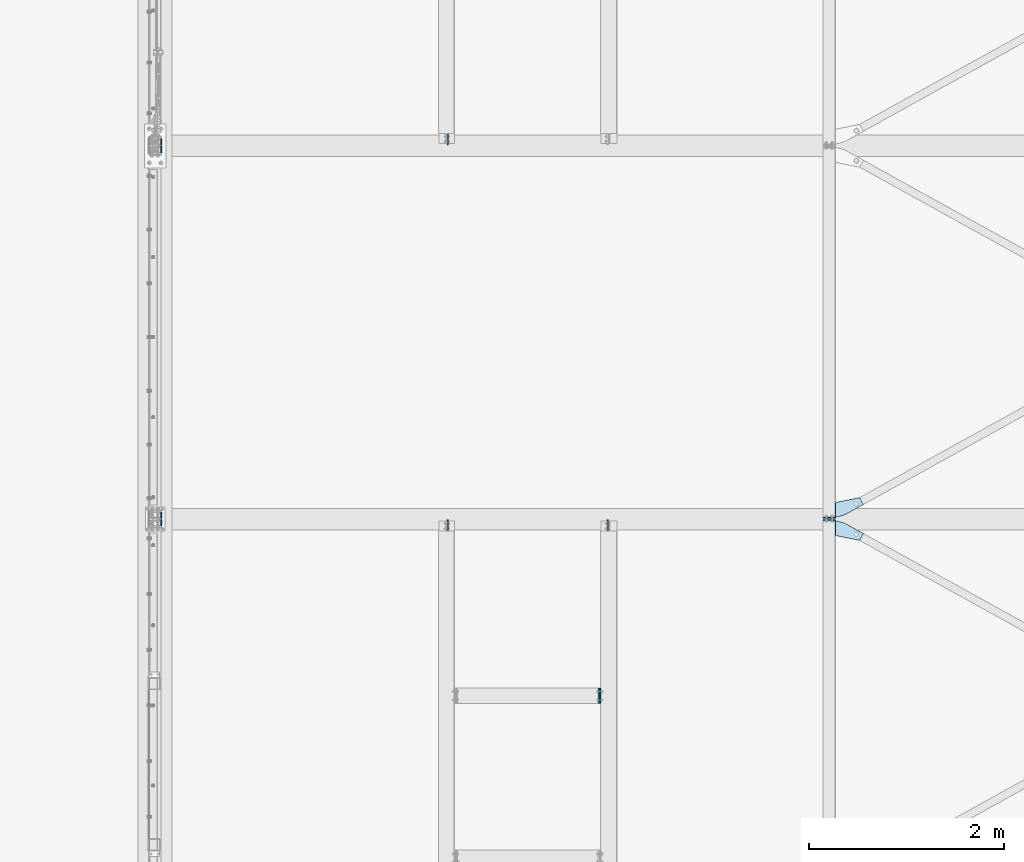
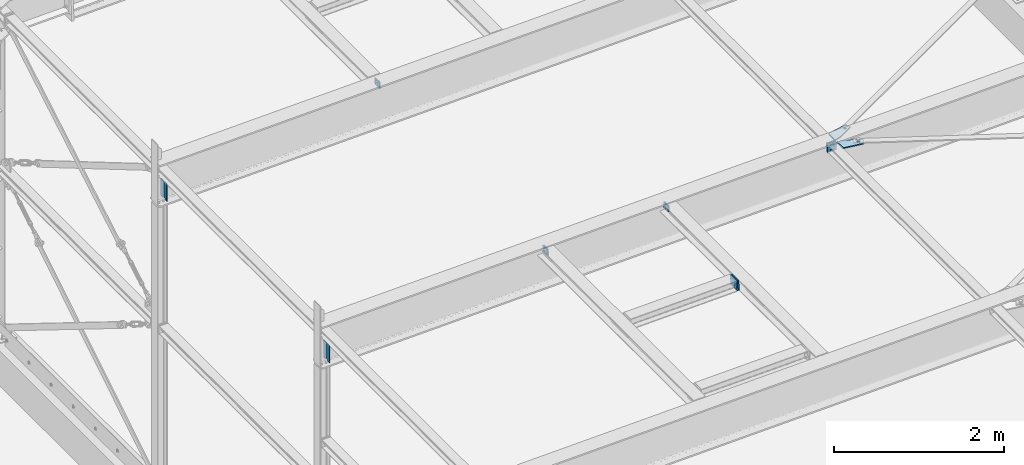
# One storey, part 39 of 476: 13 plates, 53 openings.
"""IFC2X3 building model written with IfcOpenShell, lengths in millimetres."""

from ifc_helpers import new_model, entity, si_unit, converted_unit, point, frame, frame_2d, origin, origin_with_axes, origin_2d_with_axis, place, context, project, spatial, polyline, circle_curve, line_curve, trimmed, segment, composite_curve, circle, outline, extrude, material, layer, layer_set, element, save


model = new_model("IFC2X3")

# Units and contexts
model_context = context("Model", 3, precision=1e-09, world=origin_with_axes())
ifc_project = project(units=[si_unit("LENGTHUNIT", "METRE", prefix="MILLI"), si_unit("AREAUNIT", "SQUARE_METRE"), si_unit("VOLUMEUNIT", "CUBIC_METRE"), converted_unit("PLANEANGLEUNIT", "DEGREE", entity("IfcPlaneAngleMeasure", 0.01745329), si_unit("PLANEANGLEUNIT", "RADIAN"), dimensions=[0, 0, 0, 0, 0, 0, 0])], contexts=[model_context])

# Site, building, storey
site_placement = place(None, origin_with_axes())
site = spatial("IfcSite", under=ifc_project, at=site_placement, Name="mKR Teilneubau & Sanierung BA1 - Ostfildern", CompositionType="ELEMENT")
building_placement = place(site_placement, origin_with_axes())
building = spatial("IfcBuilding", under=site, at=building_placement, Name="Struktur 1", CompositionType="ELEMENT")
storey_placement = place(building_placement, origin_with_axes())
storey = spatial("IfcBuildingStorey", under=building, at=storey_placement, Name="Default Storey", CompositionType="ELEMENT", Elevation=0.0)

# Plate, openings
ifc_material = material(Name="S235JR")
ifc_layer_1 = layer(ifc_material, 15.0)
ifc_layer_set_1 = layer_set([ifc_layer_1], Name="S235JR")
plate_1_placement = place(None, frame((15123.866061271, -13603.67487897, 5423.533418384), z_axis=(0.030019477, 0.0, -0.999549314), x_axis=(0.999549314, 0.0, 0.030019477)))
plate_1 = element("IfcPlate", 1, at=plate_1_placement, inside=storey, material=ifc_layer_set_1, Name="-", ObjectType="-", context=model_context, shape_type="SweptSolid", body=[
    extrude(outline(polyline([(0.0, 0.0), (55.140356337, 0.0), (291.381008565, 130.729269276), (252.646618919, 200.726934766), (1e-09, 150.0), (0.0, 0.0)])), origin_with_axes(), (0.0, 0.0, 1.0), 15.0),
])
opening_1_placement = place(plate_1_placement, frame((0.0, 0.0, -0.01), z_axis=(0.0, 0.0, 1.0), x_axis=(1.0, 0.0, 0.0)))
element("IfcOpeningElement", 2, at=opening_1_placement, cuts=plate_1, ObjectType="Opening", context=model_context, shape_type="SweptSolid", body=[
    extrude(outline(composite_curve([segment(trimmed(line_curve((55.140356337, 0.0), (0.874966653, 0.484183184), 45.191234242), [point((55.140356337, 0.0))], [point((94.681179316, 21.880835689))], True, "CARTESIAN"), True, "CONTINUOUS"), segment(trimmed(circle_curve(frame_2d((9.949122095, 175.0), x_axis=(-1.0, 0.0)), 175.0), [point((94.681179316, 21.880835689))], [point((9.949122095, 0.0))], False, "CARTESIAN"), True, "CONTINUOUS"), segment(trimmed(line_curve((9.949122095, 0.0), (1.0, 0.0), 45.191234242), [point((9.949122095, 0.0))], [point((55.140356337, 0.0))], True, "CARTESIAN"), True, "CONTINUOUS")], self_intersect=False)), origin(), (0.0, 0.0, 1.0), 15.02),
])
opening_2_placement = place(plate_1_placement, frame((1e-09, 151.607257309, 0.0), z_axis=(0.0, -1.0, 0.0), x_axis=(1.0, 0.0, 0.0)))
element("IfcOpeningElement", 3, at=opening_2_placement, cuts=plate_1, ObjectType="Opening", context=model_context, shape_type="SweptSolid", body=[
    extrude(outline(polyline([(0.0, 0.0), (8.0, 0.0), (0.0, 8.0), (0.0, 0.0)])), origin(), (0.0, 0.0, 1.0), 151.628257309),
])
opening_3_placement = place(plate_1_placement, frame((219.51589081, 136.676196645, 15.499690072), z_axis=(-2.2474e-05, 0.0, -1.0), x_axis=(-0.874966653, -0.484183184, 1.9664e-05)))
element("IfcOpeningElement", 4, at=opening_3_placement, cuts=plate_1, ObjectType="Opening", context=model_context, shape_type="SweptSolid", body=[
    extrude(circle(Radius=14.501, at=origin_2d_with_axis()), origin(), (0.0, 0.0, 1.0), 16.000000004),
])

plate_2_placement = place(None, frame((15123.866061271, -13567.67287897, 5423.533418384), z_axis=(-0.030019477, 0.0, 0.999549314), x_axis=(0.999549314, 0.0, 0.030019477)))
plate_2 = element("IfcPlate", 5, at=plate_2_placement, inside=storey, material=ifc_layer_set_1, Name="-", ObjectType="-", context=model_context, shape_type="SweptSolid", body=[
    extrude(outline(polyline([(0.0, 0.0), (55.140356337, 0.0), (291.381008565, 130.729269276), (252.646618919, 200.726934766), (1e-09, 150.0), (0.0, 0.0)])), origin_with_axes(), (0.0, 0.0, -1.0), 15.0),
])
opening_4_placement = place(plate_2_placement, frame((55.140356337, 0.0, 0.01), z_axis=(0.0, 0.0, 1.0), x_axis=(0.874966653, 0.484183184, 0.0)))
element("IfcOpeningElement", 6, at=opening_4_placement, cuts=plate_2, ObjectType="Opening", context=model_context, shape_type="SweptSolid", body=[
    extrude(outline(composite_curve([segment(trimmed(line_curve((0.0, 0.0), (1.0, 0.0), 45.191234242), [point((0.0, 0.0))], [point((45.191234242, 0.0))], True, "CARTESIAN"), True, "CONTINUOUS"), segment(trimmed(circle_curve(frame_2d((45.191234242, 175.0), x_axis=(-1.0, 0.0)), 175.0), [point((45.191234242, 0.0))], [point((-39.540822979, 21.880835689))], False, "CARTESIAN"), True, "CONTINUOUS"), segment(trimmed(line_curve((-39.540822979, 21.880835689), (0.874966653, -0.484183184), 45.191234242), [point((-39.540822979, 21.880835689))], [point((0.0, 0.0))], True, "CARTESIAN"), True, "CONTINUOUS")], self_intersect=False)), origin(), (0.0, 0.0, -1.0), 15.02),
])
opening_5_placement = place(plate_2_placement, frame((0.0, -0.001, 0.0), z_axis=(0.0, 1.0, 0.0), x_axis=(1.0, 0.0, 0.0)))
element("IfcOpeningElement", 7, at=opening_5_placement, cuts=plate_2, ObjectType="Opening", context=model_context, shape_type="SweptSolid", body=[
    extrude(outline(polyline([(0.0, 0.0), (8.0, 0.0), (0.0, 8.0), (0.0, 0.0)])), origin(), (0.0, 0.0, 1.0), 151.628257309),
])
opening_6_placement = place(plate_2_placement, frame((232.203782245, 143.697336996, -15.499404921), z_axis=(2.2474e-05, 0.0, -1.0), x_axis=(-1.0, 0.0, -2.2474e-05)))
element("IfcOpeningElement", 8, at=opening_6_placement, cuts=plate_2, ObjectType="Opening", context=model_context, shape_type="SweptSolid", body=[
    extrude(circle(Radius=14.501, at=frame_2d((12.687891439, -7.021140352), x_axis=(1.0, 0.0))), origin(), (0.0, 0.0, -1.0), 16.000000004),
])

plate_3_placement = place(None, frame((12807.629901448, -13591.67387897, 5289.709306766), z_axis=(-0.999549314, 0.0, -0.030019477), x_axis=(0.0, -1.0, 0.0)))
plate_3 = element("IfcPlate", 9, at=plate_3_placement, inside=storey, material=ifc_layer_set_1, Name="LugPlate#1", ObjectType="LugPlate#1", context=model_context, shape_type="SweptSolid", body=[
    extrude(outline(polyline([(0.0, 0.0), (115.0, 0.0), (115.0, 90.0), (0.0, 90.0), (0.0, 0.0)])), origin_with_axes(), (0.0, 0.0, 1.0), 15.0),
])
opening_7_placement = place(plate_3_placement, frame((0.0, 0.0, 15.1), z_axis=(0.0, 0.0, -1.0), x_axis=(-1.0, 0.0, 0.0)))
element("IfcOpeningElement", 10, at=opening_7_placement, cuts=plate_3, ObjectType="Opening", context=model_context, shape_type="SweptSolid", body=[
    extrude(outline(polyline([(0.001, 80.997518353), (0.001, 105.000932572), (-24.002414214, 105.000932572), (0.001, 80.997518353)])), origin(), (0.0, 0.0, 1.0), 15.2),
])
opening_8_placement = place(plate_3_placement, frame((40.0, 65.0, 15.5), z_axis=(0.0, 0.0, -1.0), x_axis=(1.0, 0.0, 0.0)))
element("IfcOpeningElement", 11, at=opening_8_placement, cuts=plate_3, ObjectType="Opening", context=model_context, shape_type="SweptSolid", body=[
    extrude(circle(Radius=7.001, at=frame_2d((50.0, 40.0), x_axis=(1.0, 0.0))), origin(), (0.0, 0.0, 1.0), 16.0),
])
opening_9_placement = place(plate_3_placement, frame((40.0, 65.0, 15.5), z_axis=(0.0, 0.0, -1.0), x_axis=(1.0, 0.0, 0.0)))
element("IfcOpeningElement", 12, at=opening_9_placement, cuts=plate_3, ObjectType="Opening", context=model_context, shape_type="SweptSolid", body=[
    extrude(circle(Radius=7.001, at=frame_2d((0.0, 40.0), x_axis=(1.0, 0.0))), origin(), (0.0, 0.0, 1.0), 16.0),
])
opening_10_placement = place(plate_3_placement, frame((40.0, 65.0, 15.5), z_axis=(0.0, 0.0, -1.0), x_axis=(1.0, 0.0, 0.0)))
element("IfcOpeningElement", 13, at=opening_10_placement, cuts=plate_3, ObjectType="Opening", context=model_context, shape_type="SweptSolid", body=[
    extrude(circle(Radius=7.001, at=frame_2d((50.0, 0.0), x_axis=(1.0, 0.0))), origin(), (0.0, 0.0, 1.0), 16.0),
])
opening_11_placement = place(plate_3_placement, frame((40.0, 65.0, 15.5), z_axis=(0.0, 0.0, -1.0), x_axis=(1.0, 0.0, 0.0)))
element("IfcOpeningElement", 14, at=opening_11_placement, cuts=plate_3, ObjectType="Opening", context=model_context, shape_type="SweptSolid", body=[
    extrude(circle(Radius=7.001, at=origin_2d_with_axis()), origin(), (0.0, 0.0, 1.0), 16.0),
])

plate_4_placement = place(None, frame((11154.376456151, -9759.67387897, 5240.019800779), z_axis=(0.999549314, 0.0, 0.030019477), x_axis=(0.0, 1.0, 0.0)))
plate_4 = element("IfcPlate", 15, at=plate_4_placement, inside=storey, material=ifc_layer_set_1, Name="LugPlate#2", ObjectType="LugPlate#2", context=model_context, shape_type="SweptSolid", body=[
    extrude(outline(polyline([(0.0, 0.0), (115.0, 0.0), (115.0, 90.0), (0.0, 90.0), (0.0, 0.0)])), origin_with_axes(), (0.0, 0.0, 1.0), 15.0),
])
opening_12_placement = place(plate_4_placement, frame((0.0, 0.0, -0.1), z_axis=(0.0, 0.0, 1.0), x_axis=(1.0, 0.0, 0.0)))
element("IfcOpeningElement", 16, at=opening_12_placement, cuts=plate_4, ObjectType="Opening", context=model_context, shape_type="SweptSolid", body=[
    extrude(outline(polyline([(24.002414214, 105.001067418), (-0.001, 105.001067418), (-0.001, 80.997653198), (24.002414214, 105.001067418)])), origin(), (0.0, 0.0, 1.0), 15.2),
])
opening_13_placement = place(plate_4_placement, frame((82.999, 25.0, -0.5), z_axis=(0.0, 0.0, -1.0), x_axis=(-1.0, 0.0, 0.0)))
element("IfcOpeningElement", 17, at=opening_13_placement, cuts=plate_4, ObjectType="Opening", context=model_context, shape_type="SweptSolid", body=[
    extrude(circle(Radius=7.001, at=frame_2d((-7.001, 0.0), x_axis=(1.0, 0.0))), origin(), (0.0, 0.0, -1.0), 16.0),
])
opening_14_placement = place(plate_4_placement, frame((32.999, 25.0, -0.5), z_axis=(0.0, 0.0, -1.0), x_axis=(-1.0, 0.0, 0.0)))
element("IfcOpeningElement", 18, at=opening_14_placement, cuts=plate_4, ObjectType="Opening", context=model_context, shape_type="SweptSolid", body=[
    extrude(circle(Radius=7.001, at=frame_2d((-7.001, 0.0), x_axis=(1.0, 0.0))), origin(), (0.0, 0.0, -1.0), 16.0),
])
opening_15_placement = place(plate_4_placement, frame((82.999, 65.0, -0.5), z_axis=(0.0, 0.0, -1.0), x_axis=(-1.0, 0.0, 0.0)))
element("IfcOpeningElement", 19, at=opening_15_placement, cuts=plate_4, ObjectType="Opening", context=model_context, shape_type="SweptSolid", body=[
    extrude(circle(Radius=7.001, at=frame_2d((-7.001, 0.0), x_axis=(1.0, 0.0))), origin(), (0.0, 0.0, -1.0), 16.0),
])
opening_16_placement = place(plate_4_placement, frame((32.999, 65.0, -0.5), z_axis=(0.0, 0.0, -1.0), x_axis=(-1.0, 0.0, 0.0)))
element("IfcOpeningElement", 20, at=opening_16_placement, cuts=plate_4, ObjectType="Opening", context=model_context, shape_type="SweptSolid", body=[
    extrude(circle(Radius=7.001, at=frame_2d((-7.001, 0.0), x_axis=(1.0, 0.0))), origin(), (0.0, 0.0, -1.0), 16.0),
])

plate_5_placement = place(None, frame((11151.674703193, -13591.67387897, 5329.979239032), z_axis=(0.999549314, 0.0, 0.030019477), x_axis=(0.0, -1.0, 0.0)))
plate_5 = element("IfcPlate", 21, at=plate_5_placement, inside=storey, material=ifc_layer_set_1, Name="LugPlate#2", ObjectType="LugPlate#2", context=model_context, shape_type="SweptSolid", body=[
    extrude(outline(polyline([(0.0, 0.0), (115.0, 0.0), (115.0, 90.0), (0.0, 90.0), (0.0, 0.0)])), origin_with_axes(), (0.0, 0.0, 1.0), 15.0),
])
opening_17_placement = place(plate_5_placement, frame((0.0, 0.0, -0.1), z_axis=(0.0, 0.0, 1.0), x_axis=(-1.0, 0.0, 0.0)))
element("IfcOpeningElement", 22, at=opening_17_placement, cuts=plate_5, ObjectType="Opening", context=model_context, shape_type="SweptSolid", body=[
    extrude(outline(polyline([(0.001, -9.002346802), (0.001, 15.001067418), (-24.002414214, 15.001067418), (0.001, -9.002346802)])), origin(), (0.0, 0.0, 1.0), 15.2),
])
opening_18_placement = place(plate_5_placement, frame((40.0, 25.0, -0.5), z_axis=(0.0, 0.0, 1.0), x_axis=(1.0, 0.0, 0.0)))
element("IfcOpeningElement", 23, at=opening_18_placement, cuts=plate_5, ObjectType="Opening", context=model_context, shape_type="SweptSolid", body=[
    extrude(circle(Radius=7.001, at=frame_2d((50.0, 40.0), x_axis=(1.0, 0.0))), origin(), (0.0, 0.0, 1.0), 16.0),
])
opening_19_placement = place(plate_5_placement, frame((40.0, 25.0, -0.5), z_axis=(0.0, 0.0, 1.0), x_axis=(1.0, 0.0, 0.0)))
element("IfcOpeningElement", 24, at=opening_19_placement, cuts=plate_5, ObjectType="Opening", context=model_context, shape_type="SweptSolid", body=[
    extrude(circle(Radius=7.001, at=frame_2d((0.0, 40.0), x_axis=(1.0, 0.0))), origin(), (0.0, 0.0, 1.0), 16.0),
])
opening_20_placement = place(plate_5_placement, frame((40.0, 25.0, -0.5), z_axis=(0.0, 0.0, 1.0), x_axis=(1.0, 0.0, 0.0)))
element("IfcOpeningElement", 25, at=opening_20_placement, cuts=plate_5, ObjectType="Opening", context=model_context, shape_type="SweptSolid", body=[
    extrude(circle(Radius=7.001, at=frame_2d((50.0, 0.0), x_axis=(1.0, 0.0))), origin(), (0.0, 0.0, 1.0), 16.0),
])
opening_21_placement = place(plate_5_placement, frame((40.0, 25.0, -0.5), z_axis=(0.0, 0.0, 1.0), x_axis=(1.0, 0.0, 0.0)))
element("IfcOpeningElement", 26, at=opening_21_placement, cuts=plate_5, ObjectType="Opening", context=model_context, shape_type="SweptSolid", body=[
    extrude(circle(Radius=7.001, at=origin_2d_with_axis()), origin(), (0.0, 0.0, 1.0), 16.0),
])

plate_6_placement = place(None, frame((12699.238358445, -15395.673034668, 5334.436682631), z_axis=(0.999549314, 0.0, 0.030019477), x_axis=(0.030019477, 0.0, -0.999549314)))
plate_6 = element("IfcPlate", 27, at=plate_6_placement, inside=storey, material=ifc_layer_set_1, Name="Endplate#1", ObjectType="Endplate#1", context=model_context, shape_type="SweptSolid", body=[
    extrude(outline(polyline([(-70.0, -80.0), (70.0, -80.0), (70.0, 80.0), (-70.0, 80.0), (-70.0, -80.0)])), origin_with_axes(), (0.0, 0.0, 1.0), 15.0),
])
opening_22_placement = place(plate_6_placement, frame((52.0, 18.0, 15.5), z_axis=(0.0, 0.0, -1.0), x_axis=(-1.0, 0.0, 0.0)))
element("IfcOpeningElement", 28, at=opening_22_placement, cuts=plate_6, ObjectType="Opening", context=model_context, shape_type="SweptSolid", body=[
    extrude(circle(Radius=6.001, at=origin_2d_with_axis()), origin(), (0.0, 0.0, 1.0), 16.0),
])
opening_23_placement = place(plate_6_placement, frame((-52.0, 18.0, 15.5), z_axis=(0.0, 0.0, -1.0), x_axis=(-1.0, 0.0, 0.0)))
element("IfcOpeningElement", 29, at=opening_23_placement, cuts=plate_6, ObjectType="Opening", context=model_context, shape_type="SweptSolid", body=[
    extrude(circle(Radius=6.001, at=origin_2d_with_axis()), origin(), (0.0, 0.0, 1.0), 16.0),
])
opening_24_placement = place(plate_6_placement, frame((-52.0, -18.0, 15.5), z_axis=(0.0, 0.0, -1.0), x_axis=(-1.0, 0.0, 0.0)))
element("IfcOpeningElement", 30, at=opening_24_placement, cuts=plate_6, ObjectType="Opening", context=model_context, shape_type="SweptSolid", body=[
    extrude(circle(Radius=6.001, at=origin_2d_with_axis()), origin(), (0.0, 0.0, 1.0), 16.0),
])
opening_25_placement = place(plate_6_placement, frame((52.0, -18.0, 15.5), z_axis=(0.0, 0.0, -1.0), x_axis=(-1.0, 0.0, 0.0)))
element("IfcOpeningElement", 31, at=opening_25_placement, cuts=plate_6, ObjectType="Opening", context=model_context, shape_type="SweptSolid", body=[
    extrude(circle(Radius=6.001, at=origin_2d_with_axis()), origin(), (0.0, 0.0, 1.0), 16.0),
])
opening_26_placement = place(plate_6_placement, frame((35.0, -43.0, 15.5), z_axis=(0.0, 0.0, -1.0), x_axis=(0.0, -1.0, 0.0)))
element("IfcOpeningElement", 32, at=opening_26_placement, cuts=plate_6, ObjectType="Opening", context=model_context, shape_type="SweptSolid", body=[
    extrude(circle(Radius=7.001, at=frame_2d((0.0, 70.0), x_axis=(1.0, 0.0))), origin(), (0.0, 0.0, 1.0), 16.0),
])
opening_27_placement = place(plate_6_placement, frame((35.0, -43.0, 15.5), z_axis=(0.0, 0.0, -1.0), x_axis=(0.0, -1.0, 0.0)))
element("IfcOpeningElement", 33, at=opening_27_placement, cuts=plate_6, ObjectType="Opening", context=model_context, shape_type="SweptSolid", body=[
    extrude(circle(Radius=7.001, at=origin_2d_with_axis()), origin(), (0.0, 0.0, 1.0), 16.0),
])
opening_28_placement = place(plate_6_placement, frame((35.0, 43.0, 15.5), z_axis=(0.0, 0.0, -1.0), x_axis=(-1.0, 0.0, 0.0)))
element("IfcOpeningElement", 34, at=opening_28_placement, cuts=plate_6, ObjectType="Opening", context=model_context, shape_type="SweptSolid", body=[
    extrude(circle(Radius=7.001, at=frame_2d((70.0, 0.0), x_axis=(1.0, 0.0))), origin(), (0.0, 0.0, 1.0), 16.0),
])
opening_29_placement = place(plate_6_placement, frame((35.0, 43.0, 15.5), z_axis=(0.0, 0.0, -1.0), x_axis=(-1.0, 0.0, 0.0)))
element("IfcOpeningElement", 35, at=opening_29_placement, cuts=plate_6, ObjectType="Opening", context=model_context, shape_type="SweptSolid", body=[
    extrude(circle(Radius=7.001, at=origin_2d_with_axis()), origin(), (0.0, 0.0, 1.0), 16.0),
])

plate_7_placement = place(None, frame((12729.224837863, -15395.673034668, 5335.33726695), z_axis=(-0.999549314, 0.0, -0.030019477), x_axis=(0.0, -1.0, 0.0)))
plate_7 = element("IfcPlate", 36, at=plate_7_placement, inside=storey, material=ifc_layer_set_1, Name="T-plate", ObjectType="T-plate", context=model_context, shape_type="SweptSolid", body=[
    extrude(outline(polyline([(-80.0, -70.0), (80.0, -70.0), (80.0, 70.0), (-80.0, 70.0), (-80.0, -70.0)])), origin_with_axes(), (0.0, 0.0, 1.0), 15.0),
])
opening_30_placement = place(plate_7_placement, frame((43.0, -35.0, -0.5), z_axis=(0.0, 0.0, 1.0), x_axis=(1.0, 0.0, 0.0)))
element("IfcOpeningElement", 37, at=opening_30_placement, cuts=plate_7, ObjectType="Opening", context=model_context, shape_type="SweptSolid", body=[
    extrude(circle(Radius=7.001, at=frame_2d((0.0, 70.0), x_axis=(1.0, 0.0))), origin(), (0.0, 0.0, 1.0), 16.0),
])
opening_31_placement = place(plate_7_placement, frame((43.0, -35.0, -0.5), z_axis=(0.0, 0.0, 1.0), x_axis=(1.0, 0.0, 0.0)))
element("IfcOpeningElement", 38, at=opening_31_placement, cuts=plate_7, ObjectType="Opening", context=model_context, shape_type="SweptSolid", body=[
    extrude(circle(Radius=7.001, at=origin_2d_with_axis()), origin(), (0.0, 0.0, 1.0), 16.0),
])
opening_32_placement = place(plate_7_placement, frame((-43.0, -35.0, -0.5), z_axis=(0.0, 0.0, 1.0), x_axis=(0.0, 1.0, 0.0)))
element("IfcOpeningElement", 39, at=opening_32_placement, cuts=plate_7, ObjectType="Opening", context=model_context, shape_type="SweptSolid", body=[
    extrude(circle(Radius=7.001, at=frame_2d((70.0, 0.0), x_axis=(1.0, 0.0))), origin(), (0.0, 0.0, 1.0), 16.0),
])
opening_33_placement = place(plate_7_placement, frame((-43.0, -35.0, -0.5), z_axis=(0.0, 0.0, 1.0), x_axis=(0.0, 1.0, 0.0)))
element("IfcOpeningElement", 40, at=opening_33_placement, cuts=plate_7, ObjectType="Opening", context=model_context, shape_type="SweptSolid", body=[
    extrude(circle(Radius=7.001, at=origin_2d_with_axis()), origin(), (0.0, 0.0, 1.0), 16.0),
])

ifc_layer_2 = layer(ifc_material, 10.0)
ifc_layer_set_2 = layer_set([ifc_layer_2], Name="S235JR")
plate_8_placement = place(None, frame((8222.108764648, -9836.67387897, 4696.483942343), z_axis=(1.0, 0.0, 0.0), x_axis=(0.0, 1.0, 0.0)))
plate_8 = element("IfcPlate", 41, at=plate_8_placement, inside=storey, material=ifc_layer_set_2, Name="Stiffener#2", ObjectType="Stiffener#2", context=model_context, shape_type="SweptSolid", body=[
    extrude(outline(polyline([(0.0, 0.0), (65.0, 0.0), (65.0, 250.0), (0.0, 250.0), (0.0, 0.0)])), origin_with_axes(), (0.0, 0.0, 1.0), 10.0),
])
opening_34_placement = place(plate_8_placement, frame((0.0, 0.0, -0.01), z_axis=(0.0, 0.0, 1.0), x_axis=(1.0, 0.0, 0.0)))
element("IfcOpeningElement", 42, at=opening_34_placement, cuts=plate_8, ObjectType="Opening", context=model_context, shape_type="SweptSolid", body=[
    extrude(outline(composite_curve([segment(trimmed(line_curve((65.0, 0.0), (0.0, 1.0), 25.0), [point((65.0, 0.0))], [point((65.0, 25.0))], True, "CARTESIAN"), True, "CONTINUOUS"), segment(trimmed(circle_curve(frame_2d((40.0, 25.0), x_axis=(-1.0, 0.0)), 25.0), [point((65.0, 25.0))], [point((40.0, 0.0))], False, "CARTESIAN"), True, "CONTINUOUS"), segment(trimmed(line_curve((40.0, 0.0), (1.0, 0.0), 25.0), [point((40.0, 0.0))], [point((65.0, 0.0))], True, "CARTESIAN"), True, "CONTINUOUS")], self_intersect=False)), origin(), (0.0, 0.0, 1.0), 10.02),
])
opening_35_placement = place(plate_8_placement, frame((41.0, 22.499322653, -0.5), z_axis=(0.0, 0.0, 1.0), x_axis=(0.0, 1.0, 0.0)))
element("IfcOpeningElement", 43, at=opening_35_placement, cuts=plate_8, ObjectType="Opening", context=model_context, shape_type="SweptSolid", body=[
    extrude(circle(Radius=7.001, at=frame_2d((-7.0, -7.0), x_axis=(1.0, 0.0))), origin(), (0.0, 0.0, 1.0), 11.0),
])

plate_9_placement = place(None, frame((8222.108764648, -9759.67387897, 4696.483942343), z_axis=(1.0, 0.0, 0.0), x_axis=(0.0, 1.0, 0.0)))
plate_9 = element("IfcPlate", 44, at=plate_9_placement, inside=storey, material=ifc_layer_set_2, Name="Stiffener#2", ObjectType="Stiffener#2", context=model_context, shape_type="SweptSolid", body=[
    extrude(outline(polyline([(0.0, 0.0), (65.0, 0.0), (65.0, 250.0), (0.0, 250.0), (0.0, 0.0)])), origin_with_axes(), (0.0, 0.0, 1.0), 10.0),
])
opening_36_placement = place(plate_9_placement, frame((0.0, 0.0, -0.01), z_axis=(0.0, 0.0, 1.0), x_axis=(1.0, 0.0, 0.0)))
element("IfcOpeningElement", 45, at=opening_36_placement, cuts=plate_9, ObjectType="Opening", context=model_context, shape_type="SweptSolid", body=[
    extrude(outline(composite_curve([segment(trimmed(line_curve((0.0, 0.0), (1.0, 0.0), 25.0), [point((0.0, 0.0))], [point((25.0, 0.0))], True, "CARTESIAN"), True, "CONTINUOUS"), segment(trimmed(circle_curve(frame_2d((25.0, 25.0), x_axis=(-1.0, 0.0)), 25.0), [point((25.0, 0.0))], [point((0.0, 25.0))], False, "CARTESIAN"), True, "CONTINUOUS"), segment(trimmed(line_curve((0.0, 25.0), (0.0, -1.0), 25.0), [point((0.0, 25.0))], [point((0.0, 0.0))], True, "CARTESIAN"), True, "CONTINUOUS")], self_intersect=False)), origin(), (0.0, 0.0, 1.0), 10.02),
])
opening_37_placement = place(plate_9_placement, frame((24.0, 22.499322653, -0.5), z_axis=(0.0, 0.0, 1.0), x_axis=(0.0, 1.0, 0.0)))
element("IfcOpeningElement", 46, at=opening_37_placement, cuts=plate_9, ObjectType="Opening", context=model_context, shape_type="SweptSolid", body=[
    extrude(circle(Radius=7.001, at=frame_2d((-7.0, 7.0), x_axis=(1.0, 0.0))), origin(), (0.0, 0.0, 1.0), 11.0),
])

plate_10_placement = place(None, frame((8222.108764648, -13656.67387897, 4696.483942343), z_axis=(1.0, 0.0, 0.0), x_axis=(0.0, 1.0, 0.0)))
plate_10 = element("IfcPlate", 47, at=plate_10_placement, inside=storey, material=ifc_layer_set_2, Name="Stiffener#2", ObjectType="Stiffener#2", context=model_context, shape_type="SweptSolid", body=[
    extrude(outline(polyline([(0.0, 0.0), (65.0, 0.0), (65.0, 250.0), (0.0, 250.0), (0.0, 0.0)])), origin_with_axes(), (0.0, 0.0, 1.0), 10.0),
])
opening_38_placement = place(plate_10_placement, frame((0.0, 0.0, -0.01), z_axis=(0.0, 0.0, 1.0), x_axis=(1.0, 0.0, 0.0)))
element("IfcOpeningElement", 48, at=opening_38_placement, cuts=plate_10, ObjectType="Opening", context=model_context, shape_type="SweptSolid", body=[
    extrude(outline(composite_curve([segment(trimmed(line_curve((65.0, 0.0), (0.0, 1.0), 25.0), [point((65.0, 0.0))], [point((65.0, 25.0))], True, "CARTESIAN"), True, "CONTINUOUS"), segment(trimmed(circle_curve(frame_2d((40.0, 25.0), x_axis=(-1.0, 0.0)), 25.0), [point((65.0, 25.0))], [point((40.0, 0.0))], False, "CARTESIAN"), True, "CONTINUOUS"), segment(trimmed(line_curve((40.0, 0.0), (1.0, 0.0), 25.0), [point((40.0, 0.0))], [point((65.0, 0.0))], True, "CARTESIAN"), True, "CONTINUOUS")], self_intersect=False)), origin(), (0.0, 0.0, 1.0), 10.02),
])
opening_39_placement = place(plate_10_placement, frame((41.0, 22.499322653, -0.5), z_axis=(0.0, 0.0, 1.0), x_axis=(0.0, 1.0, 0.0)))
element("IfcOpeningElement", 49, at=opening_39_placement, cuts=plate_10, ObjectType="Opening", context=model_context, shape_type="SweptSolid", body=[
    extrude(circle(Radius=7.001, at=frame_2d((-7.0, -7.0), x_axis=(1.0, 0.0))), origin(), (0.0, 0.0, 1.0), 11.0),
])

plate_11_placement = place(None, frame((8222.108764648, -13579.67387897, 4696.483942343), z_axis=(1.0, 0.0, 0.0), x_axis=(0.0, 1.0, 0.0)))
plate_11 = element("IfcPlate", 50, at=plate_11_placement, inside=storey, material=ifc_layer_set_2, Name="Stiffener#2", ObjectType="Stiffener#2", context=model_context, shape_type="SweptSolid", body=[
    extrude(outline(polyline([(0.0, 0.0), (65.0, 0.0), (65.0, 250.0), (0.0, 250.0), (0.0, 0.0)])), origin_with_axes(), (0.0, 0.0, 1.0), 10.0),
])
opening_40_placement = place(plate_11_placement, frame((0.0, 0.0, -0.01), z_axis=(0.0, 0.0, 1.0), x_axis=(1.0, 0.0, 0.0)))
element("IfcOpeningElement", 51, at=opening_40_placement, cuts=plate_11, ObjectType="Opening", context=model_context, shape_type="SweptSolid", body=[
    extrude(outline(composite_curve([segment(trimmed(line_curve((0.0, 0.0), (1.0, 0.0), 25.0), [point((0.0, 0.0))], [point((25.0, 0.0))], True, "CARTESIAN"), True, "CONTINUOUS"), segment(trimmed(circle_curve(frame_2d((25.0, 25.0), x_axis=(-1.0, 0.0)), 25.0), [point((25.0, 0.0))], [point((0.0, 25.0))], False, "CARTESIAN"), True, "CONTINUOUS"), segment(trimmed(line_curve((0.0, 25.0), (0.0, -1.0), 25.0), [point((0.0, 25.0))], [point((0.0, 0.0))], True, "CARTESIAN"), True, "CONTINUOUS")], self_intersect=False)), origin(), (0.0, 0.0, 1.0), 10.02),
])
opening_41_placement = place(plate_11_placement, frame((24.0, 22.499322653, -0.5), z_axis=(0.0, 0.0, 1.0), x_axis=(0.0, 1.0, 0.0)))
element("IfcOpeningElement", 52, at=opening_41_placement, cuts=plate_11, ObjectType="Opening", context=model_context, shape_type="SweptSolid", body=[
    extrude(circle(Radius=7.001, at=frame_2d((-7.0, 7.0), x_axis=(1.0, 0.0))), origin(), (0.0, 0.0, 1.0), 11.0),
])

ifc_layer_3 = layer(ifc_material, 12.0)
ifc_layer_set_3 = layer_set([ifc_layer_3], Name="S235JR")
plate_12_placement = place(None, frame((15123.720531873, -13591.67387897, 5428.37543939), z_axis=(0.0, -1.0, 0.0), x_axis=(-0.999549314, 0.0, -0.030019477)))
plate_12 = element("IfcPlate", 53, at=plate_12_placement, inside=storey, material=ifc_layer_set_3, Name="Endplate", ObjectType="Endplate", context=model_context, shape_type="SweptSolid", body=[
    extrude(outline(polyline([(0.0, 0.0), (120.0, 0.0), (120.0, 124.0), (0.0, 124.0), (0.0, 0.0)])), origin_with_axes(), (0.0, 0.0, 1.0), 12.0),
])
opening_42_placement = place(plate_12_placement, frame((89.999999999, 62.000112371, -0.5), z_axis=(0.0, 0.0, 1.0), x_axis=(0.0, -1.0, 0.0)))
element("IfcOpeningElement", 54, at=opening_42_placement, cuts=plate_12, ObjectType="Opening", context=model_context, shape_type="SweptSolid", body=[
    extrude(circle(Radius=7.001, at=origin_2d_with_axis()), origin(), (0.0, 0.0, 1.0), 13.0),
])
opening_43_placement = place(plate_12_placement, frame((30.000000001, 61.999887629, -0.5), z_axis=(0.0, 0.0, 1.0), x_axis=(0.0, -1.0, 0.0)))
element("IfcOpeningElement", 55, at=opening_43_placement, cuts=plate_12, ObjectType="Opening", context=model_context, shape_type="SweptSolid", body=[
    extrude(circle(Radius=7.001, at=origin_2d_with_axis()), origin(), (0.0, 0.0, 1.0), 13.0),
])
opening_44_placement = place(plate_12_placement, frame((74.5, 99.0, -0.5), z_axis=(0.0, 0.0, 1.0), x_axis=(0.0, -1.0, 0.0)))
element("IfcOpeningElement", 56, at=opening_44_placement, cuts=plate_12, ObjectType="Opening", context=model_context, shape_type="SweptSolid", body=[
    extrude(circle(Radius=6.001, at=origin_2d_with_axis()), origin(), (0.0, 0.0, 1.0), 13.0),
])
opening_45_placement = place(plate_12_placement, frame((74.5, 25.0, -0.5), z_axis=(0.0, 0.0, 1.0), x_axis=(0.0, -1.0, 0.0)))
element("IfcOpeningElement", 57, at=opening_45_placement, cuts=plate_12, ObjectType="Opening", context=model_context, shape_type="SweptSolid", body=[
    extrude(circle(Radius=6.001, at=origin_2d_with_axis()), origin(), (0.0, 0.0, 1.0), 13.0),
])
opening_46_placement = place(plate_12_placement, frame((45.5, 25.0, -0.5), z_axis=(0.0, 0.0, 1.0), x_axis=(0.0, -1.0, 0.0)))
element("IfcOpeningElement", 58, at=opening_46_placement, cuts=plate_12, ObjectType="Opening", context=model_context, shape_type="SweptSolid", body=[
    extrude(circle(Radius=6.001, at=origin_2d_with_axis()), origin(), (0.0, 0.0, 1.0), 13.0),
])
opening_47_placement = place(plate_12_placement, frame((45.5, 99.0, -0.5), z_axis=(0.0, 0.0, 1.0), x_axis=(0.0, -1.0, 0.0)))
element("IfcOpeningElement", 59, at=opening_47_placement, cuts=plate_12, ObjectType="Opening", context=model_context, shape_type="SweptSolid", body=[
    extrude(circle(Radius=6.001, at=origin_2d_with_axis()), origin(), (0.0, 0.0, 1.0), 13.0),
])

plate_13_placement = place(None, frame((15003.774614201, -13579.67387897, 5424.773102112), z_axis=(0.0, 1.0, 0.0), x_axis=(0.999549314, 0.0, 0.030019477)))
plate_13 = element("IfcPlate", 60, at=plate_13_placement, inside=storey, material=ifc_layer_set_3, Name="Endplate", ObjectType="Endplate", context=model_context, shape_type="SweptSolid", body=[
    extrude(outline(polyline([(0.0, 0.0), (120.0, 0.0), (120.0, 124.0), (0.0, 124.0), (0.0, 0.0)])), origin_with_axes(), (0.0, 0.0, 1.0), 12.0),
])
opening_48_placement = place(plate_13_placement, frame((30.000000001, 62.000112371, 12.5), z_axis=(0.0, 0.0, -1.0), x_axis=(0.0, -1.0, 0.0)))
element("IfcOpeningElement", 61, at=opening_48_placement, cuts=plate_13, ObjectType="Opening", context=model_context, shape_type="SweptSolid", body=[
    extrude(circle(Radius=7.001, at=origin_2d_with_axis()), origin(), (0.0, 0.0, 1.0), 13.0),
])
opening_49_placement = place(plate_13_placement, frame((89.999999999, 61.999887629, 12.5), z_axis=(0.0, 0.0, -1.0), x_axis=(0.0, -1.0, 0.0)))
element("IfcOpeningElement", 62, at=opening_49_placement, cuts=plate_13, ObjectType="Opening", context=model_context, shape_type="SweptSolid", body=[
    extrude(circle(Radius=7.001, at=origin_2d_with_axis()), origin(), (0.0, 0.0, 1.0), 13.0),
])
opening_50_placement = place(plate_13_placement, frame((45.5, 99.0, -0.5), z_axis=(0.0, 0.0, 1.0), x_axis=(0.0, 1.0, 0.0)))
element("IfcOpeningElement", 63, at=opening_50_placement, cuts=plate_13, ObjectType="Opening", context=model_context, shape_type="SweptSolid", body=[
    extrude(circle(Radius=6.001, at=origin_2d_with_axis()), origin(), (0.0, 0.0, 1.0), 13.0),
])
opening_51_placement = place(plate_13_placement, frame((45.5, 25.0, -0.5), z_axis=(0.0, 0.0, 1.0), x_axis=(0.0, 1.0, 0.0)))
element("IfcOpeningElement", 64, at=opening_51_placement, cuts=plate_13, ObjectType="Opening", context=model_context, shape_type="SweptSolid", body=[
    extrude(circle(Radius=6.001, at=origin_2d_with_axis()), origin(), (0.0, 0.0, 1.0), 13.0),
])
opening_52_placement = place(plate_13_placement, frame((74.5, 25.0, -0.5), z_axis=(0.0, 0.0, 1.0), x_axis=(0.0, 1.0, 0.0)))
element("IfcOpeningElement", 65, at=opening_52_placement, cuts=plate_13, ObjectType="Opening", context=model_context, shape_type="SweptSolid", body=[
    extrude(circle(Radius=6.001, at=origin_2d_with_axis()), origin(), (0.0, 0.0, 1.0), 13.0),
])
opening_53_placement = place(plate_13_placement, frame((74.5, 99.0, -0.5), z_axis=(0.0, 0.0, 1.0), x_axis=(0.0, 1.0, 0.0)))
element("IfcOpeningElement", 66, at=opening_53_placement, cuts=plate_13, ObjectType="Opening", context=model_context, shape_type="SweptSolid", body=[
    extrude(circle(Radius=6.001, at=origin_2d_with_axis()), origin(), (0.0, 0.0, 1.0), 13.0),
])

save(model, "model.ifc")
